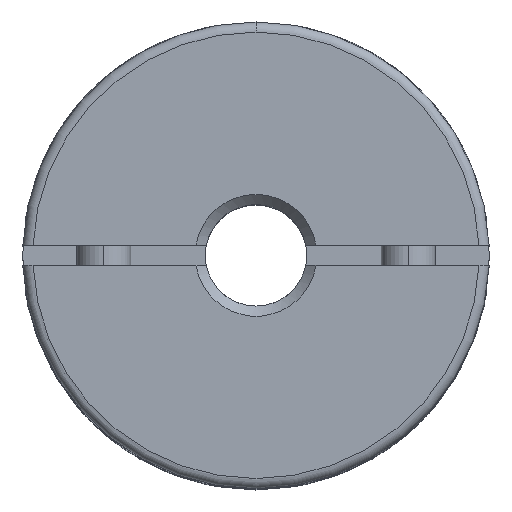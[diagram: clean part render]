
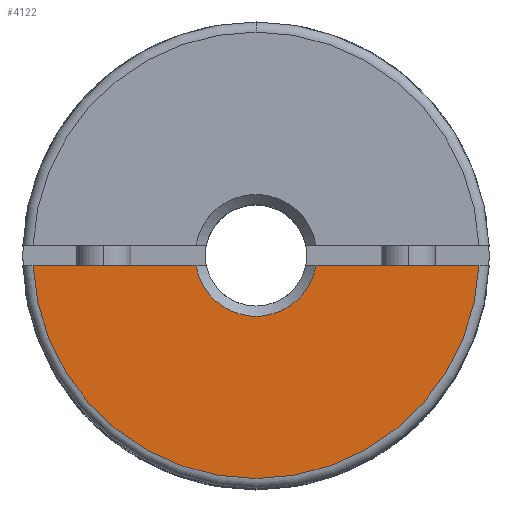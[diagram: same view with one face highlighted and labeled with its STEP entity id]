
A CAD part, top view. The second image highlights one B-rep face of the part: STEP entity #4122.
In plain terms, the highlighted planar face has unit normal (0, 0, 1).
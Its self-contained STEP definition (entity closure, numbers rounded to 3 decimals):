
#70 = AXIS2_PLACEMENT_3D ( 'NONE', #4857, #4858, #4859 ) ;
#71 = AXIS2_PLACEMENT_3D ( 'NONE', #4847, #4848, #4849 ) ;
#674 = CARTESIAN_POINT ( 'NONE',  ( -1.775, -0.3, 10.8 ) ) ;
#768 = CARTESIAN_POINT ( 'NONE',  ( -6.593, -0.3, 10.8 ) ) ;
#798 = CARTESIAN_POINT ( 'NONE',  ( 1.775, -0.3, 10.8 ) ) ;
#1067 = FACE_OUTER_BOUND ( 'NONE', #1853, .T. ) ;
#1504 = CARTESIAN_POINT ( 'NONE',  ( 0., 0., 10.8 ) ) ;
#1509 = PLANE ( 'NONE',  #6577 ) ;
#1512 = DIRECTION ( 'NONE',  ( 0., 0., 1. ) ) ;
#1513 = DIRECTION ( 'NONE',  ( 0., 1., 0. ) ) ;
#1581 = ORIENTED_EDGE ( 'NONE', *, *, #6652, .T. ) ;
#1688 = ORIENTED_EDGE ( 'NONE', *, *, #6655, .T. ) ;
#1853 = EDGE_LOOP ( 'NONE', ( #2369, #1688, #2714, #1581 ) ) ;
#2369 = ORIENTED_EDGE ( 'NONE', *, *, #6654, .F. ) ;
#2714 = ORIENTED_EDGE ( 'NONE', *, *, #6656, .F. ) ;
#2811 = CARTESIAN_POINT ( 'NONE',  ( 6.593, -0.3, 10.8 ) ) ;
#3791 = VECTOR ( 'NONE', #4850, 1000. ) ;
#3797 = LINE ( 'NONE', #4855, #3913 ) ;
#3806 = CIRCLE ( 'NONE', #70, 1.8 ) ;
#3913 = VECTOR ( 'NONE', #4856, 1000. ) ;
#4041 = LINE ( 'NONE', #4832, #3791 ) ;
#4098 = CIRCLE ( 'NONE', #71, 6.6 ) ;
#4122 = ADVANCED_FACE ( 'NONE', ( #1067 ), #1509, .T. ) ;
#4832 = CARTESIAN_POINT ( 'NONE',  ( -6.9, -0.3, 10.8 ) ) ;
#4847 = CARTESIAN_POINT ( 'NONE',  ( 0., 0., 10.8 ) ) ;
#4848 = DIRECTION ( 'NONE',  ( 0., 0., 1. ) ) ;
#4849 = DIRECTION ( 'NONE',  ( 0., 1., 0. ) ) ;
#4850 = DIRECTION ( 'NONE',  ( 1., 0., 0. ) ) ;
#4855 = CARTESIAN_POINT ( 'NONE',  ( -6.9, -0.3, 10.8 ) ) ;
#4856 = DIRECTION ( 'NONE',  ( 1., 0., 0. ) ) ;
#4857 = CARTESIAN_POINT ( 'NONE',  ( 0., 0., 10.8 ) ) ;
#4858 = DIRECTION ( 'NONE',  ( 0., 0., -1. ) ) ;
#4859 = DIRECTION ( 'NONE',  ( 1., 0., 0. ) ) ;
#4928 = VERTEX_POINT ( 'NONE', #2811 ) ;
#5049 = VERTEX_POINT ( 'NONE', #674 ) ;
#5143 = VERTEX_POINT ( 'NONE', #768 ) ;
#5173 = VERTEX_POINT ( 'NONE', #798 ) ;
#6577 = AXIS2_PLACEMENT_3D ( 'NONE', #1504, #1512, #1513 ) ;
#6652 = EDGE_CURVE ( 'NONE', #5143, #4928, #4098, .T. ) ;
#6654 = EDGE_CURVE ( 'NONE', #5173, #4928, #3797, .T. ) ;
#6655 = EDGE_CURVE ( 'NONE', #5173, #5049, #3806, .T. ) ;
#6656 = EDGE_CURVE ( 'NONE', #5143, #5049, #4041, .T. ) ;
